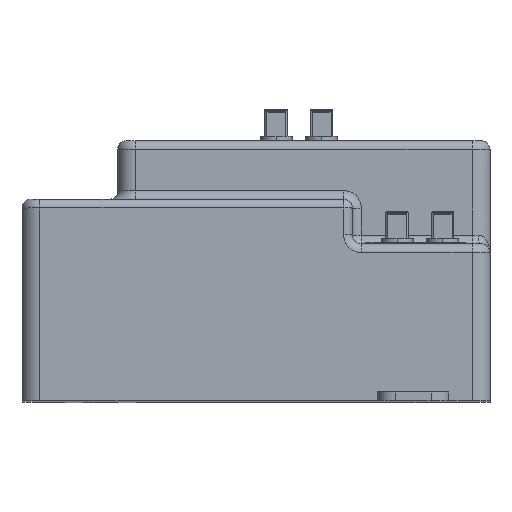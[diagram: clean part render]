
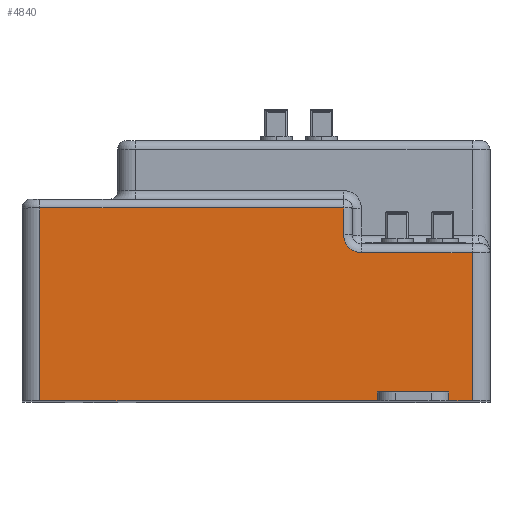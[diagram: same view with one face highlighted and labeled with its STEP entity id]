
A CAD part, top view. The second image highlights one B-rep face of the part: STEP entity #4840.
In plain terms, the highlighted planar face has unit normal (0, 0, 1).
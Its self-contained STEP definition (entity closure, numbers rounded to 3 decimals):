
#1046=FACE_OUTER_BOUND('',#12480,.T.);
#4840=ADVANCED_FACE('',(#1046),#8774,.F.);
#8774=PLANE('',#74083);
#12480=EDGE_LOOP('',(#18018,#18019,#18020,#18021,#18022,#18023,#18024,#18025,
#18026,#18027,#18028,#18029,#18030,#18031,#18032));
#16755=CIRCLE('',#74082,2.);
#18018=ORIENTED_EDGE('',*,*,#45552,.F.);
#18019=ORIENTED_EDGE('',*,*,#45553,.T.);
#18020=ORIENTED_EDGE('',*,*,#45554,.T.);
#18021=ORIENTED_EDGE('',*,*,#45555,.F.);
#18022=ORIENTED_EDGE('',*,*,#45556,.F.);
#18023=ORIENTED_EDGE('',*,*,#45505,.T.);
#18024=ORIENTED_EDGE('',*,*,#45557,.T.);
#18025=ORIENTED_EDGE('',*,*,#45558,.T.);
#18026=ORIENTED_EDGE('',*,*,#45559,.F.);
#18027=ORIENTED_EDGE('',*,*,#45515,.T.);
#18028=ORIENTED_EDGE('',*,*,#45560,.F.);
#18029=ORIENTED_EDGE('',*,*,#45561,.T.);
#18030=ORIENTED_EDGE('',*,*,#45562,.T.);
#18031=ORIENTED_EDGE('',*,*,#45499,.T.);
#18032=ORIENTED_EDGE('',*,*,#45563,.F.);
#38851=VERTEX_POINT('',#98541);
#38852=VERTEX_POINT('',#98543);
#38857=VERTEX_POINT('',#98553);
#38858=VERTEX_POINT('',#98555);
#38867=VERTEX_POINT('',#98574);
#38868=VERTEX_POINT('',#98575);
#38902=VERTEX_POINT('',#98650);
#38903=VERTEX_POINT('',#98651);
#38904=VERTEX_POINT('',#98653);
#38905=VERTEX_POINT('',#98655);
#38906=VERTEX_POINT('',#98657);
#38907=VERTEX_POINT('',#98660);
#38908=VERTEX_POINT('',#98662);
#38909=VERTEX_POINT('',#98665);
#38910=VERTEX_POINT('',#98667);
#45499=EDGE_CURVE('',#38852,#38851,#55927,.T.);
#45505=EDGE_CURVE('',#38858,#38857,#55931,.T.);
#45515=EDGE_CURVE('',#38867,#38868,#55937,.T.);
#45552=EDGE_CURVE('',#38902,#38903,#55961,.T.);
#45553=EDGE_CURVE('',#38902,#38904,#16755,.T.);
#45554=EDGE_CURVE('',#38904,#38905,#55962,.T.);
#45555=EDGE_CURVE('',#38906,#38905,#55963,.T.);
#45556=EDGE_CURVE('',#38858,#38906,#55964,.T.);
#45557=EDGE_CURVE('',#38857,#38907,#55965,.T.);
#45558=EDGE_CURVE('',#38907,#38908,#55966,.T.);
#45559=EDGE_CURVE('',#38867,#38908,#55967,.T.);
#45560=EDGE_CURVE('',#38909,#38868,#55968,.T.);
#45561=EDGE_CURVE('',#38909,#38910,#55969,.T.);
#45562=EDGE_CURVE('',#38910,#38852,#55970,.T.);
#45563=EDGE_CURVE('',#38903,#38851,#55971,.T.);
#55927=LINE('',#98542,#64994);
#55931=LINE('',#98554,#64998);
#55937=LINE('',#98573,#65004);
#55961=LINE('',#98649,#65028);
#55962=LINE('',#98654,#65029);
#55963=LINE('',#98656,#65030);
#55964=LINE('',#98658,#65031);
#55965=LINE('',#98659,#65032);
#55966=LINE('',#98661,#65033);
#55967=LINE('',#98663,#65034);
#55968=LINE('',#98664,#65035);
#55969=LINE('',#98666,#65036);
#55970=LINE('',#98668,#65037);
#55971=LINE('',#98669,#65038);
#64994=VECTOR('',#79218,1.);
#64998=VECTOR('',#79226,1.);
#65004=VECTOR('',#79240,1.);
#65028=VECTOR('',#79298,1.);
#65029=VECTOR('',#79301,1.);
#65030=VECTOR('',#79302,1.);
#65031=VECTOR('',#79303,1.);
#65032=VECTOR('',#79304,1.);
#65033=VECTOR('',#79305,1.);
#65034=VECTOR('',#79306,1.);
#65035=VECTOR('',#79307,1.);
#65036=VECTOR('',#79308,1.);
#65037=VECTOR('',#79309,1.);
#65038=VECTOR('',#79310,1.);
#74082=AXIS2_PLACEMENT_3D('',#98652,#79299,#79300);
#74083=AXIS2_PLACEMENT_3D('',#98670,#79311,#79312);
#79218=DIRECTION('',(1.,0.,0.));
#79226=DIRECTION('',(1.,0.,0.));
#79240=DIRECTION('',(1.,0.,0.));
#79298=DIRECTION('',(1.,0.,0.));
#79299=DIRECTION('',(0.,0.,-1.));
#79300=DIRECTION('',(-1.,0.,0.));
#79301=DIRECTION('',(0.,1.,0.));
#79302=DIRECTION('',(1.,0.,0.));
#79303=DIRECTION('',(0.,1.,0.));
#79304=DIRECTION('',(0.,1.,0.));
#79305=DIRECTION('',(1.,0.,0.));
#79306=DIRECTION('',(0.,1.,0.));
#79307=DIRECTION('',(0.,-1.,0.));
#79308=DIRECTION('',(1.,0.,0.));
#79309=DIRECTION('',(0.,-1.,0.));
#79310=DIRECTION('',(0.,-1.,0.));
#79311=DIRECTION('',(0.,0.,-1.));
#79312=DIRECTION('',(1.,0.,0.));
#98541=CARTESIAN_POINT('',(255.011,150.642,457.238));
#98542=CARTESIAN_POINT('',(230.811,150.642,457.238));
#98543=CARTESIAN_POINT('',(252.411,150.642,457.238));
#98553=CARTESIAN_POINT('',(244.411,150.642,457.238));
#98554=CARTESIAN_POINT('',(230.811,150.642,457.238));
#98555=CARTESIAN_POINT('',(206.611,150.642,457.238));
#98573=CARTESIAN_POINT('',(230.811,150.642,457.238));
#98574=CARTESIAN_POINT('',(246.538,150.642,457.238));
#98575=CARTESIAN_POINT('',(250.285,150.642,457.238));
#98649=CARTESIAN_POINT('',(230.811,167.242,457.238));
#98650=CARTESIAN_POINT('',(242.611,167.242,457.238));
#98651=CARTESIAN_POINT('',(255.011,167.242,457.238));
#98652=CARTESIAN_POINT('',(242.611,169.242,457.238));
#98653=CARTESIAN_POINT('',(240.611,169.242,457.238));
#98654=CARTESIAN_POINT('',(240.611,172.242,457.238));
#98655=CARTESIAN_POINT('',(240.611,172.242,457.238));
#98656=CARTESIAN_POINT('',(255.811,172.242,457.238));
#98657=CARTESIAN_POINT('',(206.611,172.242,457.238));
#98658=CARTESIAN_POINT('',(206.611,150.642,457.238));
#98659=CARTESIAN_POINT('',(244.411,168.242,457.238));
#98660=CARTESIAN_POINT('',(244.411,151.642,457.238));
#98661=CARTESIAN_POINT('',(255.811,151.642,457.238));
#98662=CARTESIAN_POINT('',(246.538,151.642,457.238));
#98663=CARTESIAN_POINT('',(246.538,150.642,457.238));
#98664=CARTESIAN_POINT('',(250.285,150.642,457.238));
#98665=CARTESIAN_POINT('',(250.285,151.642,457.238));
#98666=CARTESIAN_POINT('',(255.811,151.642,457.238));
#98667=CARTESIAN_POINT('',(252.411,151.642,457.238));
#98668=CARTESIAN_POINT('',(252.411,168.242,457.238));
#98669=CARTESIAN_POINT('',(255.011,167.242,457.238));
#98670=CARTESIAN_POINT('',(255.811,168.242,457.238));
